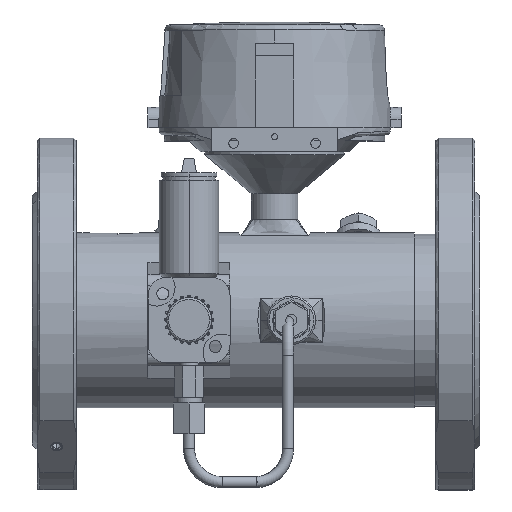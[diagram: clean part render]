
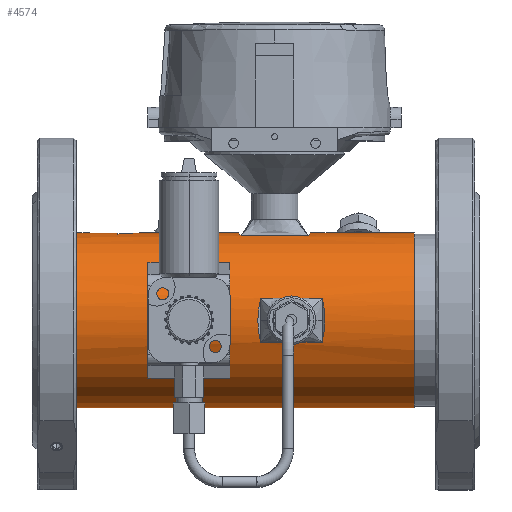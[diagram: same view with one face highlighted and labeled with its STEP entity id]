
A CAD part, top view. The second image highlights one B-rep face of the part: STEP entity #4574.
In plain terms, the highlighted cylindrical face has radius 47 mm (diameter 94 mm), a partial arc.
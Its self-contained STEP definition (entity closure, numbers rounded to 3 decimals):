
#3517=CARTESIAN_POINT('',(115.5,11.779,45.5));
#3518=CARTESIAN_POINT('',(114.484,7.853,46.516));
#3519=CARTESIAN_POINT('',(113.516,0.,47.484));
#3520=CARTESIAN_POINT('',(114.484,-7.853,46.516));
#3521=CARTESIAN_POINT('',(115.5,-11.779,45.5));
#3526=DIRECTION('',(1.,0.,0.));
#3527=VECTOR('',#3526,33.);
#3528=CARTESIAN_POINT('',(115.5,-11.779,45.5));
#3529=LINE('',#3528,#3527);
#3533=CARTESIAN_POINT('',(148.5,-11.779,45.5));
#3534=CARTESIAN_POINT('',(149.516,-7.853,46.516));
#3535=CARTESIAN_POINT('',(150.484,0.,47.484));
#3536=CARTESIAN_POINT('',(149.516,7.853,46.516));
#3537=CARTESIAN_POINT('',(148.5,11.779,45.5));
#3542=DIRECTION('',(1.,0.,0.));
#3543=VECTOR('',#3542,33.);
#3544=CARTESIAN_POINT('',(115.5,11.779,45.5));
#3545=LINE('',#3544,#3543);
#3549=CARTESIAN_POINT('',(23.381,0.,0.));
#3550=DIRECTION('',(1.,0.,0.));
#3551=DIRECTION('',(0.,1.,0.));
#3552=AXIS2_PLACEMENT_3D('',#3549,#3550,#3551);
#3557=DIRECTION('',(1.,0.,0.));
#3558=VECTOR('',#3557,15.);
#3559=CARTESIAN_POINT('',(23.381,46.904,3.));
#3560=LINE('',#3559,#3558);
#3564=CARTESIAN_POINT('',(38.381,0.,0.));
#3565=DIRECTION('',(1.,0.,0.));
#3566=DIRECTION('',(0.,0.998,0.064));
#3567=AXIS2_PLACEMENT_3D('',#3564,#3565,#3566);
#3572=CARTESIAN_POINT('',(52.238,47.,0.));
#3573=CARTESIAN_POINT('',(47.61,47.,2.672));
#3574=CARTESIAN_POINT('',(42.991,46.774,5.338));
#3575=CARTESIAN_POINT('',(38.381,46.314,8.));
#3580=CARTESIAN_POINT('',(103.5,47.,0.));
#3581=CARTESIAN_POINT('',(103.5,47.,4.052));
#3582=CARTESIAN_POINT('',(104.015,46.485,7.974));
#3583=CARTESIAN_POINT('',(105.,45.5,11.779));
#3588=DIRECTION('',(1.,0.,0.));
#3589=VECTOR('',#3588,36.);
#3590=CARTESIAN_POINT('',(105.,45.5,11.779));
#3591=LINE('',#3590,#3589);
#3595=CARTESIAN_POINT('',(142.5,47.,0.));
#3596=CARTESIAN_POINT('',(142.5,47.,4.052));
#3597=CARTESIAN_POINT('',(141.985,46.485,7.974));
#3598=CARTESIAN_POINT('',(141.,45.5,11.779));
#3603=CARTESIAN_POINT('',(198.,0.,0.));
#3604=DIRECTION('',(1.,0.,0.));
#3605=DIRECTION('',(0.,1.,0.));
#3606=AXIS2_PLACEMENT_3D('',#3603,#3604,#3605);
#3747=CARTESIAN_POINT('',(0.,0.,0.));
#3748=DIRECTION('',(1.,0.,0.));
#3749=DIRECTION('',(0.,1.,0.));
#3750=AXIS2_PLACEMENT_3D('',#3747,#3748,#3749);
#3866=DIRECTION('',(-1.,0.,0.));
#3867=VECTOR('',#3866,23.381);
#3868=CARTESIAN_POINT('',(23.381,47.,0.));
#3869=LINE('',#3868,#3867);
#3873=DIRECTION('',(-1.,0.,0.));
#3874=VECTOR('',#3873,198.);
#3875=CARTESIAN_POINT('',(198.,-47.,0.));
#3876=LINE('',#3875,#3874);
#3888=DIRECTION('',(-1.,0.,0.));
#3889=VECTOR('',#3888,55.5);
#3890=CARTESIAN_POINT('',(198.,47.,0.));
#3891=LINE('',#3890,#3889);
#3918=DIRECTION('',(-1.,0.,0.));
#3919=VECTOR('',#3918,51.262);
#3920=CARTESIAN_POINT('',(103.5,47.,0.));
#3921=LINE('',#3920,#3919);
#4194=CARTESIAN_POINT('',(0.,47.,0.));
#4195=CARTESIAN_POINT('',(0.,-47.,0.));
#4196=VERTEX_POINT('',#4194);
#4197=VERTEX_POINT('',#4195);
#4198=VERTEX_POINT('',#3580);
#4199=VERTEX_POINT('',#3583);
#4200=CARTESIAN_POINT('',(141.,45.5,11.779));
#4201=VERTEX_POINT('',#4200);
#4202=VERTEX_POINT('',#3595);
#4218=VERTEX_POINT('',#3517);
#4219=VERTEX_POINT('',#3521);
#4220=VERTEX_POINT('',#3533);
#4221=VERTEX_POINT('',#3537);
#4234=CARTESIAN_POINT('',(198.,47.,0.));
#4235=CARTESIAN_POINT('',(198.,-47.,0.));
#4236=VERTEX_POINT('',#4234);
#4237=VERTEX_POINT('',#4235);
#4298=CARTESIAN_POINT('',(23.381,47.,0.));
#4299=CARTESIAN_POINT('',(23.381,46.904,3.));
#4300=VERTEX_POINT('',#4298);
#4301=VERTEX_POINT('',#4299);
#4302=CARTESIAN_POINT('',(38.381,46.904,3.));
#4303=VERTEX_POINT('',#4302);
#4304=CARTESIAN_POINT('',(38.381,46.314,8.));
#4305=VERTEX_POINT('',#4304);
#4306=VERTEX_POINT('',#3572);
#4532=CARTESIAN_POINT('',(-11.35,0.,0.));
#4533=DIRECTION('',(1.,0.,0.));
#4534=DIRECTION('',(0.,-1.,0.));
#4535=AXIS2_PLACEMENT_3D('',#4532,#4533,#4534);
#4536=CYLINDRICAL_SURFACE('',#4535,47.);
#4538=ORIENTED_EDGE('',*,*,#4537,.T.);
#4540=ORIENTED_EDGE('',*,*,#4539,.T.);
#4542=ORIENTED_EDGE('',*,*,#4541,.T.);
#4544=ORIENTED_EDGE('',*,*,#4543,.F.);
#4546=ORIENTED_EDGE('',*,*,#4545,.F.);
#4548=ORIENTED_EDGE('',*,*,#4547,.T.);
#4549=ORIENTED_EDGE('',*,*,#4509,.T.);
#4551=ORIENTED_EDGE('',*,*,#4550,.F.);
#4553=ORIENTED_EDGE('',*,*,#4552,.F.);
#4555=ORIENTED_EDGE('',*,*,#4554,.T.);
#4557=ORIENTED_EDGE('',*,*,#4556,.T.);
#4559=ORIENTED_EDGE('',*,*,#4558,.F.);
#4561=ORIENTED_EDGE('',*,*,#4560,.F.);
#4562=EDGE_LOOP('',(#4538,#4540,#4542,#4544,#4546,#4548,#4549,#4551,#4553,#4555,
#4557,#4559,#4561));
#4563=FACE_OUTER_BOUND('',#4562,.F.);
#4565=ORIENTED_EDGE('',*,*,#4564,.T.);
#4567=ORIENTED_EDGE('',*,*,#4566,.T.);
#4569=ORIENTED_EDGE('',*,*,#4568,.T.);
#4571=ORIENTED_EDGE('',*,*,#4570,.F.);
#4572=EDGE_LOOP('',(#4565,#4567,#4569,#4571));
#4573=FACE_BOUND('',#4572,.F.);
#3522=B_SPLINE_CURVE_WITH_KNOTS('',3,(#3517,#3518,#3519,#3520,#3521),
.UNSPECIFIED.,.F.,.F.,(4,1,4),(0.,0.5,1.),.UNSPECIFIED.);
#3538=B_SPLINE_CURVE_WITH_KNOTS('',3,(#3533,#3534,#3535,#3536,#3537),
.UNSPECIFIED.,.F.,.F.,(4,1,4),(0.,0.5,1.),.UNSPECIFIED.);
#3553=CIRCLE('',#3552,47.);
#3568=CIRCLE('',#3567,47.);
#3576=B_SPLINE_CURVE_WITH_KNOTS('',3,(#3572,#3573,#3574,#3575),.UNSPECIFIED.,
.F.,.F.,(4,4),(0.,1.),.UNSPECIFIED.);
#3584=B_SPLINE_CURVE_WITH_KNOTS('',3,(#3580,#3581,#3582,#3583),.UNSPECIFIED.,
.F.,.F.,(4,4),(0.,1.),.UNSPECIFIED.);
#3599=B_SPLINE_CURVE_WITH_KNOTS('',3,(#3595,#3596,#3597,#3598),.UNSPECIFIED.,
.F.,.F.,(4,4),(0.,1.),.UNSPECIFIED.);
#3607=CIRCLE('',#3606,47.);
#3751=CIRCLE('',#3750,47.);
#4509=EDGE_CURVE('',#4199,#4201,#3591,.T.);
#4537=EDGE_CURVE('',#4300,#4301,#3553,.T.);
#4539=EDGE_CURVE('',#4301,#4303,#3560,.T.);
#4541=EDGE_CURVE('',#4303,#4305,#3568,.T.);
#4543=EDGE_CURVE('',#4306,#4305,#3576,.T.);
#4545=EDGE_CURVE('',#4198,#4306,#3921,.T.);
#4547=EDGE_CURVE('',#4198,#4199,#3584,.T.);
#4550=EDGE_CURVE('',#4202,#4201,#3599,.T.);
#4552=EDGE_CURVE('',#4236,#4202,#3891,.T.);
#4554=EDGE_CURVE('',#4236,#4237,#3607,.T.);
#4556=EDGE_CURVE('',#4237,#4197,#3876,.T.);
#4558=EDGE_CURVE('',#4196,#4197,#3751,.T.);
#4560=EDGE_CURVE('',#4300,#4196,#3869,.T.);
#4564=EDGE_CURVE('',#4218,#4219,#3522,.T.);
#4566=EDGE_CURVE('',#4219,#4220,#3529,.T.);
#4568=EDGE_CURVE('',#4220,#4221,#3538,.T.);
#4570=EDGE_CURVE('',#4218,#4221,#3545,.T.);
#4574=ADVANCED_FACE('',(#4563,#4573),#4536,.T.);
